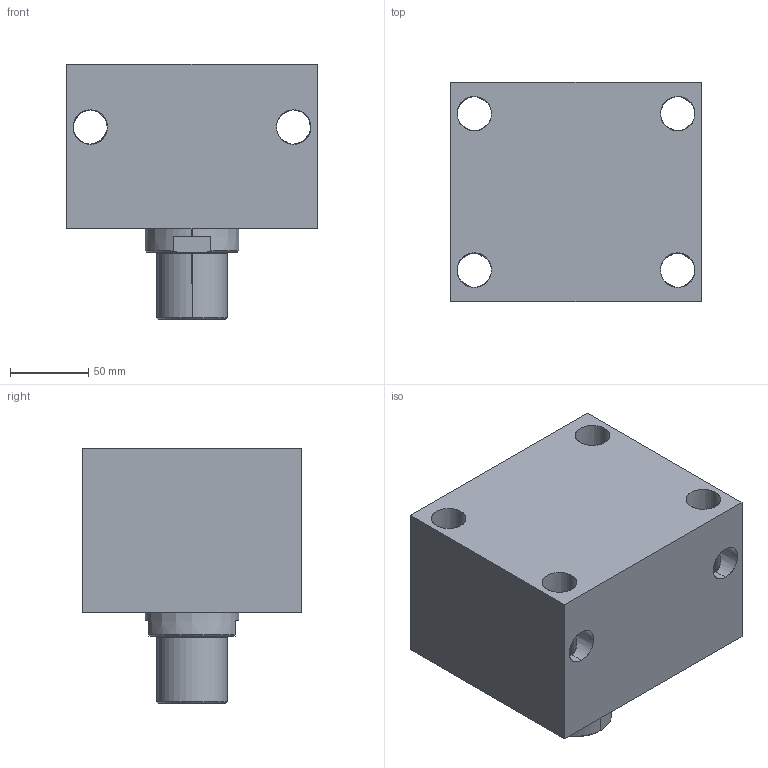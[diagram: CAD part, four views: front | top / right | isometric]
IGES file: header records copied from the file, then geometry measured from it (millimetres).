
Start section: SolidWorks IGES file using analytic representation for surfaces
Global section: file name: D:\karuppas\Clasp\3D model\Block cylinder B01C-Male thread - Copy\B01C-925M\Block cylinder B01C-925M.IGS; native system: SolidWorks 2017; preprocessor: SolidWorks 2017; author: pc; date: 220709.235029; units: millimetre
Bounding box: 160 x 140 x 163 mm (x, y, z)
Surface area: 198189 mm2 (no closed solid volume)
Topology: 0 solids, 0 shells, 357 faces, 5782 edges, 5778 vertices
Faces by surface type: bspline 303, revolution 54
